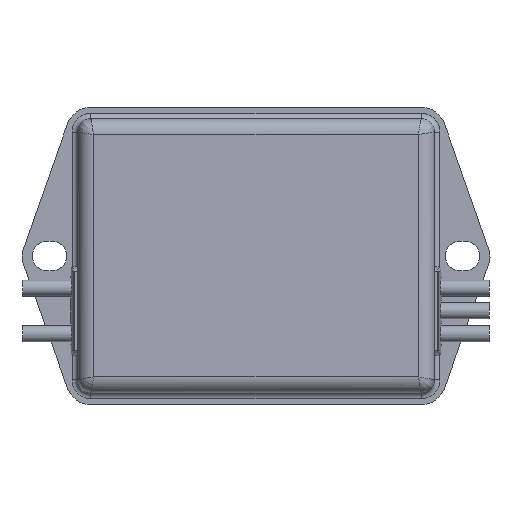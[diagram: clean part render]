
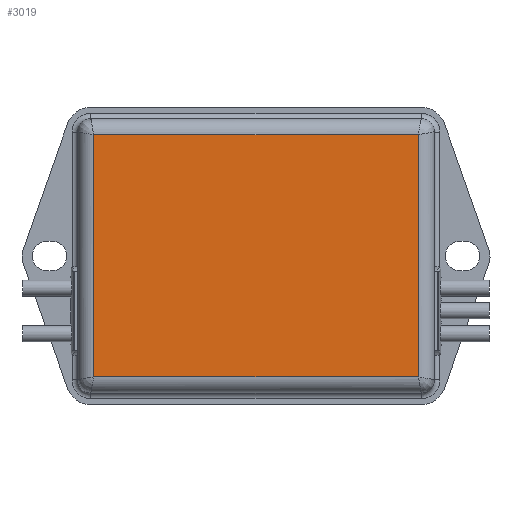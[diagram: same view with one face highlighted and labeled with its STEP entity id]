
A CAD part, top view. The second image highlights one B-rep face of the part: STEP entity #3019.
In plain terms, the highlighted planar face has unit normal (0, 0, 1).
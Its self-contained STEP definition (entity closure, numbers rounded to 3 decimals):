
#2603=CARTESIAN_POINT('',(-29.5,-22.0,0.0));
#2604=VERTEX_POINT('',#2603);
#2672=CARTESIAN_POINT('',(-29.5,22.,0.0));
#2673=VERTEX_POINT('',#2672);
#2674=CARTESIAN_POINT('',(-29.5,-22.0,0.0));
#2675=DIRECTION('',(0.0,1.0,0.0));
#2676=VECTOR('',#2675,44.);
#2677=LINE('',#2674,#2676);
#2678=EDGE_CURVE('',#2604,#2673,#2677,.T.);
#2825=CARTESIAN_POINT('',(29.5,22.0,0.0));
#2826=VERTEX_POINT('',#2825);
#2862=CARTESIAN_POINT('',(29.5,-22.,0.0));
#2863=VERTEX_POINT('',#2862);
#2864=CARTESIAN_POINT('',(29.5,22.,0.0));
#2865=DIRECTION('',(0.0,-1.0,0.0));
#2866=VECTOR('',#2865,44.0);
#2867=LINE('',#2864,#2866);
#2868=EDGE_CURVE('',#2826,#2863,#2867,.T.);
#2982=CARTESIAN_POINT('',(29.5,-22.,0.0));
#2983=DIRECTION('',(-1.0,0.0,0.0));
#2984=VECTOR('',#2983,59.0);
#2985=LINE('',#2982,#2984);
#2986=EDGE_CURVE('',#2863,#2604,#2985,.T.);
#2997=CARTESIAN_POINT('',(-29.5,22.,0.0));
#2998=DIRECTION('',(1.0,0.0,0.0));
#2999=VECTOR('',#2998,59.0);
#3000=LINE('',#2997,#2999);
#3001=EDGE_CURVE('',#2673,#2826,#3000,.T.);
#3008=CARTESIAN_POINT('',(0.,0.,0.0));
#3009=DIRECTION('',(0.0,0.0,1.0));
#3010=DIRECTION('',(1.0,0.0,0.0));
#3011=AXIS2_PLACEMENT_3D('',#3008,#3009,#3010);
#3012=PLANE('',#3011);
#3013=ORIENTED_EDGE('',*,*,#3001,.F.);
#3014=ORIENTED_EDGE('',*,*,#2678,.F.);
#3015=ORIENTED_EDGE('',*,*,#2986,.F.);
#3016=ORIENTED_EDGE('',*,*,#2868,.F.);
#3017=EDGE_LOOP('',(#3013,#3014,#3015,#3016));
#3018=FACE_OUTER_BOUND('',#3017,.T.);
#3019=ADVANCED_FACE('',(#3018),#3012,.T.);
